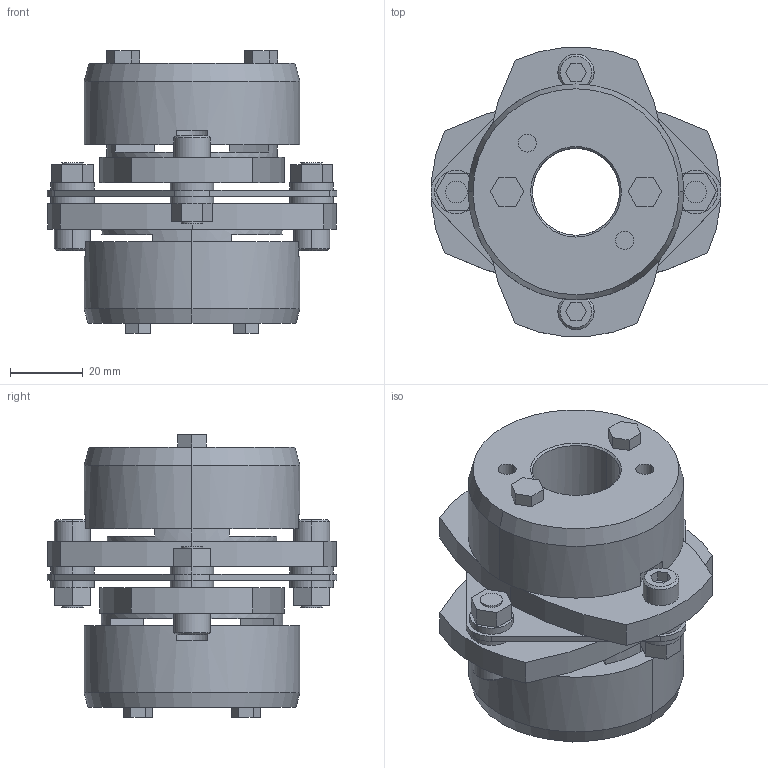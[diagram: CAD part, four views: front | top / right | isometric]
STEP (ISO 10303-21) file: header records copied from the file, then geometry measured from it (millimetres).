
FILE_DESCRIPTION((''),'2;1');
FILE_NAME('LCS-80T7-24×30.stp','2011-09-12T16:34:50',(''),(''),'AutoCAD STEP 2000i','AutoCAD 2000i',', , ');
FILE_SCHEMA(('CONFIG_CONTROL_DESIGN'));
Length unit declared in the file: millimetre
Products named in the file (12): LCS-80T7-24×30; 忣兜1; LC80T7-T030; LC80T7-T028; LC80T7-T024-1; LC80T7-T024; LC80T7-T022; LC80T7-T019-1; LC80T7-T019; LC80T7-T017-1; LC80T7-T017; LCS80-ITA
Assembly tree (11 placements, depth 2):
  LCS-80T7-24×30
    忣兜1
    LC80T7-T030
    LC80T7-T028
    LC80T7-T024-1
    LC80T7-T024
    LC80T7-T022
    LC80T7-T019-1
    LC80T7-T019
    LC80T7-T017-1
    LC80T7-T017
    LCS80-ITA
Bounding box: 80 x 79.95 x 78.05 mm (x, y, z)
Volume: 153733.2 mm3; surface area: 43901.7 mm2
Topology: 1 solids, 1 shells, 240 faces, 592 edges, 388 vertices
Faces by surface type: plane 136, cylinder 84, cone 20
Entity records: 7413 total; most frequent: DIRECTION 1308, CARTESIAN_POINT 1232, ORIENTED_EDGE 1184, EDGE_CURVE 592, AXIS2_PLACEMENT_3D 464, VERTEX_POINT 388, VECTOR 380, LINE 380
